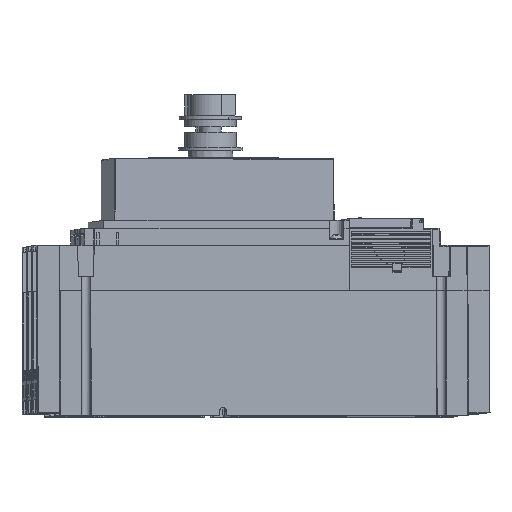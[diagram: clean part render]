
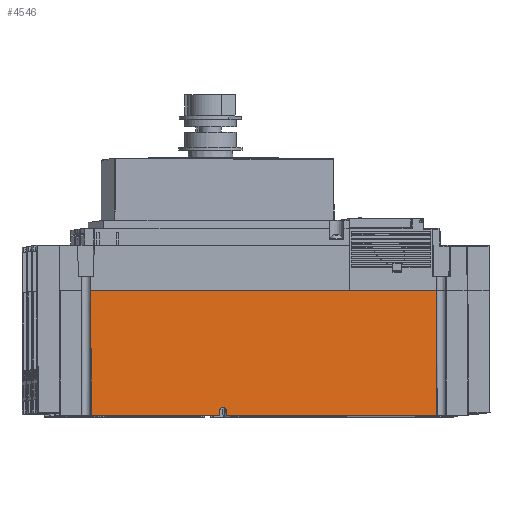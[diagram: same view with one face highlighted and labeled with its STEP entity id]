
A CAD part, left-side view. The second image highlights one B-rep face of the part: STEP entity #4546.
In plain terms, the highlighted planar face has unit normal (-0.998, -0.062, 0.009).
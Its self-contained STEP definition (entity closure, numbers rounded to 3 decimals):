
#4546=ADVANCED_FACE('',(#43320),#43322,.T.);
#43320=FACE_BOUND('',#43321,.T.);
#43321=EDGE_LOOP('',(#93966,#93967,#93968,#93969,#93970,#93971,#93972,#93973));
#43322=PLANE('',#43323);
#43323=AXIS2_PLACEMENT_3D('',#43324,#43325,#43326);
#43324=CARTESIAN_POINT('',(-12.364,116.723,34.939));
#43325=DIRECTION('',(-0.998,-0.062,0.009));
#43326=DIRECTION('',(0.062,-0.998,0.));
#93966=ORIENTED_EDGE('',*,*,#138672,.T.);
#93967=ORIENTED_EDGE('',*,*,#138673,.F.);
#93968=ORIENTED_EDGE('',*,*,#138674,.F.);
#93969=ORIENTED_EDGE('',*,*,#138675,.F.);
#93970=ORIENTED_EDGE('',*,*,#138676,.T.);
#93971=ORIENTED_EDGE('',*,*,#138677,.T.);
#93972=ORIENTED_EDGE('',*,*,#137445,.F.);
#93973=ORIENTED_EDGE('',*,*,#138671,.T.);
#137445=EDGE_CURVE('',#160227,#160229,#160230,.T.);
#138671=EDGE_CURVE('',#160227,#162326,#162328,.T.);
#138672=EDGE_CURVE('',#162326,#162329,#162330,.T.);
#138673=EDGE_CURVE('',#162331,#162329,#162332,.T.);
#138674=EDGE_CURVE('',#162333,#162331,#162334,.T.);
#138675=EDGE_CURVE('',#162335,#162333,#162336,.T.);
#138676=EDGE_CURVE('',#162335,#162337,#162338,.T.);
#138677=EDGE_CURVE('',#162337,#160229,#162339,.T.);
#160227=VERTEX_POINT('',#187624);
#160229=VERTEX_POINT('',#187629);
#160230=LINE('',#187630,#187631);
#162326=VERTEX_POINT('',#193611);
#162328=LINE('',#193616,#193617);
#162329=VERTEX_POINT('',#193619);
#162330=LINE('',#193620,#193621);
#162331=VERTEX_POINT('',#193623);
#162332=LINE('',#193624,#193625);
#162333=VERTEX_POINT('',#193627);
#162334=CIRCLE('',#193628,1.75);
#162335=VERTEX_POINT('',#193632);
#162336=LINE('',#193633,#193634);
#162337=VERTEX_POINT('',#193636);
#162338=LINE('',#193637,#193638);
#162339=LINE('',#193640,#193641);
#187624=CARTESIAN_POINT('',(-9.869,86.621,104.936));
#187629=CARTESIAN_POINT('',(2.276,-107.603,104.936));
#187630=CARTESIAN_POINT('',(-9.869,86.621,104.936));
#187631=VECTOR('',#187632,1.);
#187632=DIRECTION('',(0.062,-0.998,0.));
#193611=CARTESIAN_POINT('',(-10.479,86.583,34.939));
#193616=CARTESIAN_POINT('',(-9.869,86.621,104.936));
#193617=VECTOR('',#193618,1.);
#193618=DIRECTION('',(-0.009,-0.001,-1.));
#193619=CARTESIAN_POINT('',(-5.957,14.273,34.939));
#193620=CARTESIAN_POINT('',(-10.479,86.583,34.939));
#193621=VECTOR('',#193622,1.);
#193622=DIRECTION('',(0.062,-0.998,0.));
#193623=CARTESIAN_POINT('',(-5.926,14.173,37.752));
#193624=CARTESIAN_POINT('',(-5.926,14.173,37.752));
#193625=VECTOR('',#193626,1.);
#193626=DIRECTION('',(-0.011,0.035,-0.999));
#193627=CARTESIAN_POINT('',(-5.708,10.682,37.752));
#193628=AXIS2_PLACEMENT_3D('',#193629,#193630,#193631);
#193629=CARTESIAN_POINT('',(-5.818,12.428,37.689));
#193630=DIRECTION('',(-0.998,-0.062,0.009));
#193631=DIRECTION('',(0.063,-0.997,0.036));
#193632=CARTESIAN_POINT('',(-5.726,10.58,34.939));
#193633=CARTESIAN_POINT('',(-5.726,10.58,34.939));
#193634=VECTOR('',#193635,1.);
#193635=DIRECTION('',(0.006,0.036,0.999));
#193636=CARTESIAN_POINT('',(1.667,-107.641,34.939));
#193637=CARTESIAN_POINT('',(-5.726,10.58,34.939));
#193638=VECTOR('',#193639,1.);
#193639=DIRECTION('',(0.062,-0.998,0.));
#193640=CARTESIAN_POINT('',(1.667,-107.641,34.939));
#193641=VECTOR('',#193642,1.);
#193642=DIRECTION('',(0.009,0.001,1.));
